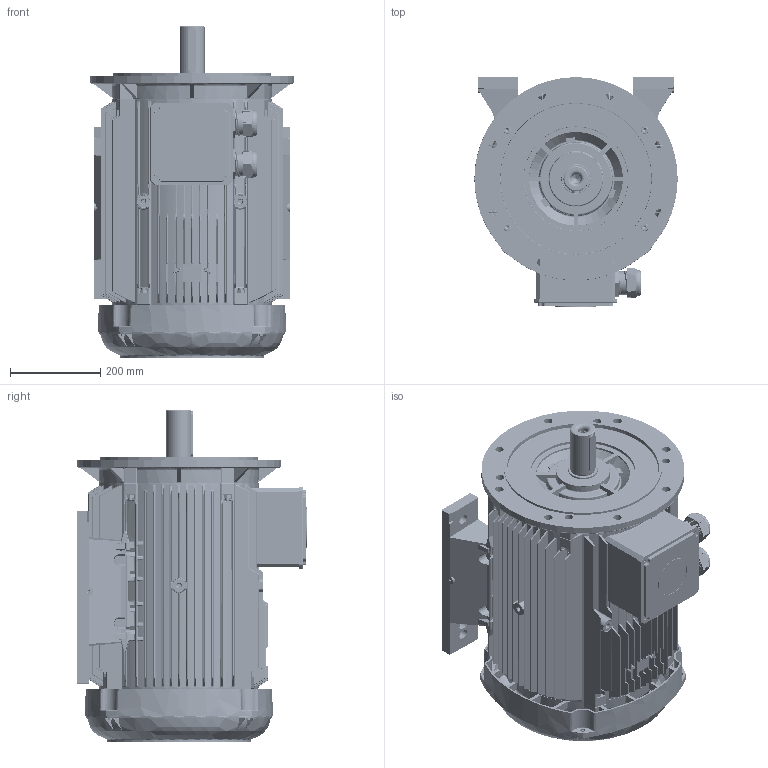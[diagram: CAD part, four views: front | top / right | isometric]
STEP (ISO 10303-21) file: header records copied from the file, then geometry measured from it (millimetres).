
FILE_DESCRIPTION(/* description */ (''),/* implementation_level */ '2;1');
FILE_NAME(/* name */ 'OUTLOOK VIEW QH225 PA B35 FF400 SPL.stp',/* time_stamp */ '2021-09-13T15:15:18+03:00',/* author */ (''),/* organization */ (''),/* preprocessor_version */ 'ST-DEVELOPER v16',/* originating_system */ 'SIEMENS PLM Software NX 11.0',/* authorisation */ '');
FILE_SCHEMA (('AUTOMOTIVE_DESIGN { 1 0 10303 214 3 1 1 1 }'));
Products named in the file (1): 26062CE45B9Cd7hr
Bounding box: 450 x 508.15 x 735 mm (x, y, z)
Volume: 20649622.2 mm3; surface area: 4974655.9 mm2
Topology: 64 solids, 80 shells, 12105 faces, 33472 edges, 20604 vertices
Faces by surface type: plane 5639, bspline 2817, cylinder 2302, cone 668, torus 424, sphere 232, extrusion 19, revolution 4
Full cylindrical faces by diameter (mm): 3 x2, 4 x2, 5.5 x8, 5.853 x6, 6.3 x1, 7.5 x4, 8.376 x8, 10 x10, 10.5 x4, 11 x4, 16 x8, 18.25 x1, 18.5 x11, 20 x1, 21 x1, 28 x1, 32.2 x1, 39 x2, 40.1 x3, 43.7 x1, 45.5 x2, 48 x1, 49.7 x75, 54.3 x3, 54.7 x4, 55 x18, 55.1 x16, 55.3 x1, 55.9 x3, 56 x2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
Entity records: 486674 total; most frequent: CARTESIAN_POINT 215006, ORIENTED_EDGE 64644, DIRECTION 45965, EDGE_CURVE 32322, VERTEX_POINT 20489, AXIS2_PLACEMENT_3D 16785, EDGE_LOOP 13978, VECTOR 12391
